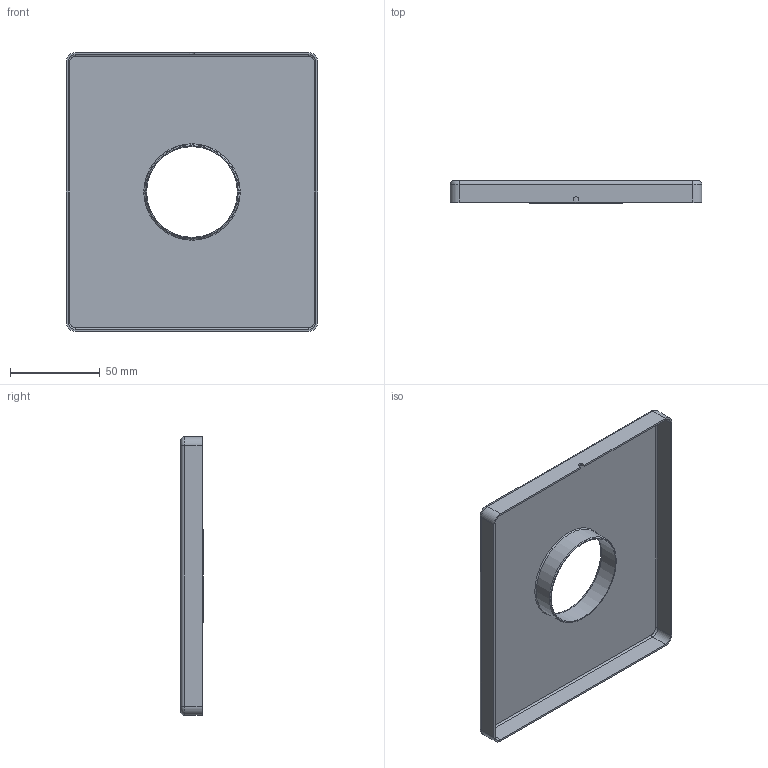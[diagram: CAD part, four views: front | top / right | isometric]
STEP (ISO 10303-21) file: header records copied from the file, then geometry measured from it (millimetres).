
FILE_DESCRIPTION(/* description */ (''),/* implementation_level */ '2;1');
FILE_NAME(/* name */ 'X:\Utilisateurs\Simon\PLTQ023 3D.stp',/* time_stamp */ '2018-02-05T11:19:57-05:00',/* author */ ('simonb'),/* organization */ (''),/* preprocessor_version */ 'ST-DEVELOPER v17',/* originating_system */ 'Autodesk Inventor 2018',/* authorisation */ '');
FILE_SCHEMA (('AUTOMOTIVE_DESIGN { 1 0 10303 214 3 1 1 }'));
Length unit declared in the file: millimetre
Products named in the file (2): PLTQ023; 050-401
Assembly tree (1 placements, depth 2):
  PLTQ023
    050-401
Bounding box: 140 x 12.5 x 155 mm (x, y, z)
Volume: 27417.5 mm3; surface area: 55580.4 mm2
Topology: 1 solids, 1 shells, 414 faces, 1050 edges, 695 vertices
Faces by surface type: bspline 210, plane 174, cylinder 19, torus 10, cone 1
Full cylindrical faces by diameter (mm): 50.5 x1, 52.5 x1
Entity records: 13582 total; most frequent: CARTESIAN_POINT 4916, ORIENTED_EDGE 2100, DIRECTION 1099, EDGE_CURVE 1050, VERTEX_POINT 695, LINE 575, VECTOR 575, EDGE_LOOP 473
